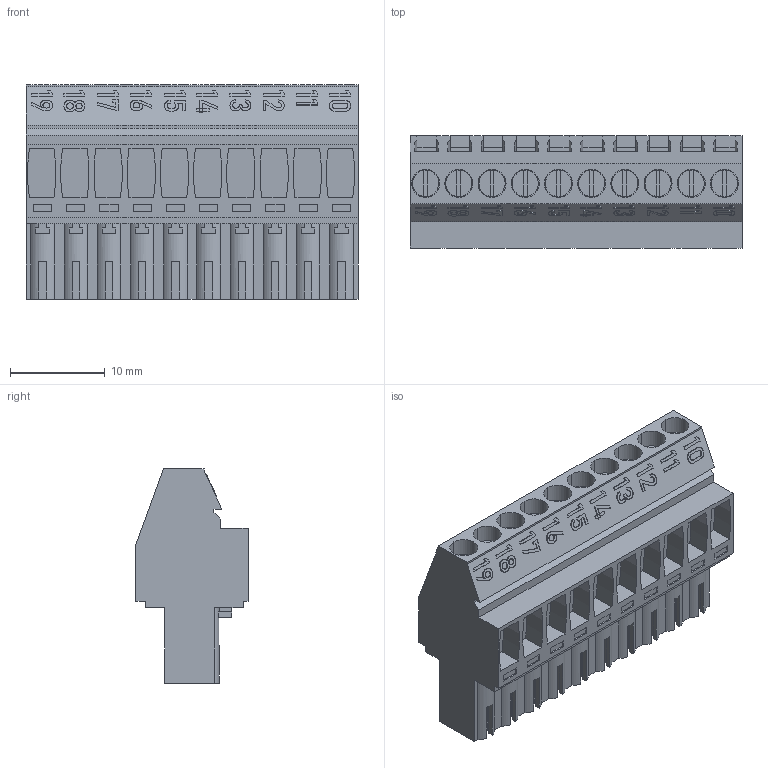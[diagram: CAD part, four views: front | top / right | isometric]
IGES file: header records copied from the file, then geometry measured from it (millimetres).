
Global section: file name: SBC_IGS_ACC_440550570_Plug-10p-180-label-39-30_2021-08-15.igs; native system: CAD Exchanger; preprocessor: CAD Exchanger 3.9.1 (cadexchanger.com); date: 20210815.165230; units: millimetre
Bounding box: 35 x 11.83 x 22.6 mm (x, y, z)
Volume: 5386.6 mm3; surface area: 4249.6 mm2
Topology: 32 solids, 32 shells, 952 faces, 5798 edges, 14578 vertices
Faces by surface type: plane 702, extrusion 170, cylinder 80
